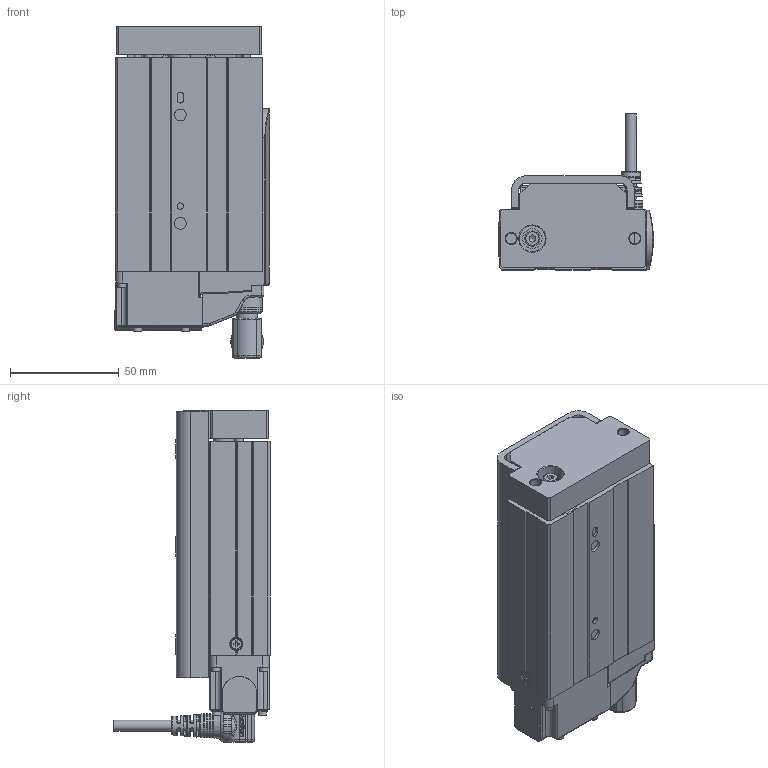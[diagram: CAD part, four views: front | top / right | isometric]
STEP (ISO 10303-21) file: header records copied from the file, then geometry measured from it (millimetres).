
FILE_DESCRIPTION(/* description */ ('STEP AP203'),/* implementation_level */ '2;1');
FILE_NAME(/* name */ 'D:\暫\2025.02.06 CSG 3D\CSG25-B\CSG25-S50-B-WW.stp',/* time_stamp */ '2025-02-08T10:33:50+08:00',/* author */ ('T10033'),/* organization */ (''),/* preprocessor_version */ 'ST-DEVELOPER v18.1',/* originating_system */ 'Autodesk Inventor 2020',/* authorisation */ '');
FILE_SCHEMA (('CONFIG_CONTROL_DESIGN'));
Products named in the file (29): CSG25-50行程-煞車; ©T©wªO-·¥­­¾×ª
O4-M2¤ú; M12 -14PIN  ªOºÝ-²Ä¤@ºØ
³W®æ; CSG25-50¥»Åé3ª©-ªo¤Õ
½Õ¾ã¨¤«×; countersunk flat head cross recess screw_iso_ISO 7046-1 - M2.5 x 4 - 
Z - 4N; ¶ì½¦ºÝ»-L¼Ë¦¡(TOYO)-°
t¦XPCB(·Ù¨®¥Î)-DF3±µÀYª½
±µ©ñ¤Jª©; IS 2269 - M2 x 10; ISO 4762 - M2.5 x 6ISO; PCB; 423T324GV F; 22024-000496; plain washer 10673 type snl_iso_ISO 10673-4.55-S; 22035-000061(G4ªo¯]); countersunk flat head cross recess screw_iso_ISO 7046-1 - M2.5 x 4 - 
Z - 4N_1; plain washer 10673 type snl_iso_ISO 10673-2.75-S; socket head cap screw_iso_ISO 4762 M2.5 x 5 - 5N; ©T©wªO-·¥­­¾×ª
O4-M2¤ú_1; socket head cap screw_iso_ISO 4762 M2.5 x 6 - 6N; socket head cap screw_iso_ISO 4762 M2.5 x 8 - 8N; socket head cap screw_iso_ISO 4762 M2 x 12 - 12N; M12 -14PIN  ªOºÝ-²Ä¤@ºØ
³W®æ_1; CSG25-50¥»Åé3ª©-ªo¤Õ
½Õ¾ã¨¤«×_1; 12003-000221-­×§ï; CSG25-Carriage-newtype; CNS 3932 - M 4 x 0.7 x 12; CNS 4558 - M5 x 0.8 x 12; Solid1-2; 43T34 TFSDR_Shrinkwrap_1; M12-14PIN 線端90度接頭-05中繼線
Assembly tree (40 placements, depth 3):
  CSG25-50行程-煞車
    ©T©wªO-·¥­­¾×ª
O4-M2¤ú
    M12 -14PIN  ªOºÝ-²Ä¤@ºØ
³W®æ
    CSG25-50¥»Åé3ª©-ªo¤Õ
½Õ¾ã¨¤«×
    countersunk flat head cross recess screw_iso_ISO 7046-1 - M2.5 x 4 - 
Z - 4N
    ¶ì½¦ºÝ»-L¼Ë¦¡(TOYO)-°
t¦XPCB(·Ù¨®¥Î)-DF3±µÀYª½
±µ©ñ¤Jª©
    IS 2269 - M2 x 10  x2
    ISO 4762 - M2.5 x 6ISO  x2
    PCB
    423T324GV F
      22024-000496
      plain washer 10673 type snl_iso_ISO 10673-4.55-S
      22035-000061(G4ªo¯])
      socket head cap screw_iso_ISO 4762 M2.5 x 8 - 8N  x8
      countersunk flat head cross recess screw_iso_ISO 7046-1 - M2.5 x 4 - 
Z - 4N_1
      plain washer 10673 type snl_iso_ISO 10673-2.75-S
      socket head cap screw_iso_ISO 4762 M2.5 x 5 - 5N
      ©T©wªO-·¥­­¾×ª
O4-M2¤ú_1
      socket head cap screw_iso_ISO 4762 M2.5 x 6 - 6N  x2
      socket head cap screw_iso_ISO 4762 M2 x 12 - 12N  x2
      M12 -14PIN  ªOºÝ-²Ä¤@ºØ
³W®æ_1
      CSG25-50¥»Åé3ª©-ªo¤Õ
½Õ¾ã¨¤«×_1
      12003-000221-­×§ï
      CSG25-Carriage-newtype
      CNS 3932 - M 4 x 0.7 x 12
      CNS 4558 - M5 x 0.8 x 12  x2
      Solid1-2
    43T34 TFSDR_Shrinkwrap_1
    M12-14PIN 線端90度接頭-05中繼線
Bounding box: 71.25 x 71.98 x 153 mm (x, y, z)
Volume: 376706.2 mm3; surface area: 131182.7 mm2
Topology: 54 solids, 62 shells, 3435 faces, 9442 edges, 6261 vertices
Faces by surface type: plane 1715, cylinder 727, bspline 482, cone 351, torus 147, sphere 13
Full cylindrical faces by diameter (mm): 0.6 x28, 0.65 x14, 1 x14, 1.567 x1, 1.6 x8, 2 x6, 2.05 x13, 2.5 x21, 2.75 x1, 2.9 x2, 3 x4, 3.8 x10, 4 x1, 4.134 x8, 4.5 x15, 4.55 x1, 4.7 x2, 4.95 x1, 5 x9, 5.2 x1, 5.3 x2, 5.4 x6, 5.5 x4, 6 x5, 7 x3, 8 x1, 8.9 x1, 9 x13, 9.5 x2, 9.6 x1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
Entity records: 130629 total; most frequent: CARTESIAN_POINT 46450, ORIENTED_EDGE 17593, DIRECTION 16442, EDGE_CURVE 8815, AXIS2_PLACEMENT_3D 5946, VERTEX_POINT 5882, LINE 4550, VECTOR 4550
